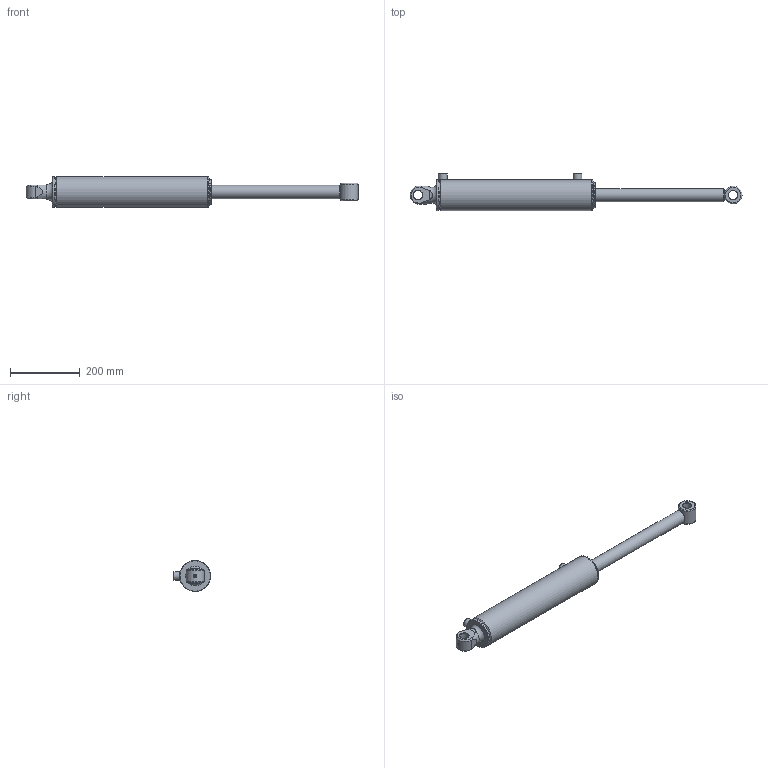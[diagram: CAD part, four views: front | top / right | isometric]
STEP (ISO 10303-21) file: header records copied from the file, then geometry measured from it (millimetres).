
FILE_DESCRIPTION(/* description */ ('Alibre Inc.'),/* implementation_level */ '2;1');
FILE_NAME(/* name */ 'export0',/* time_stamp */ '2016-08-16T10:00:54+12:00',/* author */ (''),/* organization */ (''),/* preprocessor_version */ 'ST-DEVELOPER v14',/* originating_system */ 'Alibre',/* authorisation */ '');
FILE_SCHEMA (('AUTOMOTIVE_DESIGN'));
Length unit declared in the file: centimetre
Bounding box: 953.13 x 106.9 x 88.9 mm (x, y, z)
Volume: 1749741.4 mm3; surface area: 400065.4 mm2
Topology: 12 solids, 12 shells, 157 faces, 332 edges, 209 vertices
Faces by surface type: cylinder 61, plane 57, cone 23, torus 13, sphere 2, bspline 1
Full cylindrical faces by diameter (mm): 7 x1, 8.3 x2, 8.8 x1, 9.525 x2, 15.25 x2, 23 x1, 23.622 x1, 25 x2, 25.4 x2, 25.451 x1, 38.1 x2, 38.18 x2, 44.45 x1, 46.9 x2, 47.62 x2, 50.8 x1, 60.33 x1, 69.2 x1, 70.36 x1, 71.6 x2, 72.57 x2, 72.87 x1, 74.83 x2, 76.09 x2, 76.1 x1, 76.2 x2, 79.4 x1, 88.9 x3
Entity records: 4365 total; most frequent: CARTESIAN_POINT 1210, DIRECTION 599, ORIENTED_EDGE 456, AXIS2_PLACEMENT_3D 310, FACE_BOUND 271, EDGE_LOOP 269, EDGE_CURVE 228, VERTEX_POINT 191
